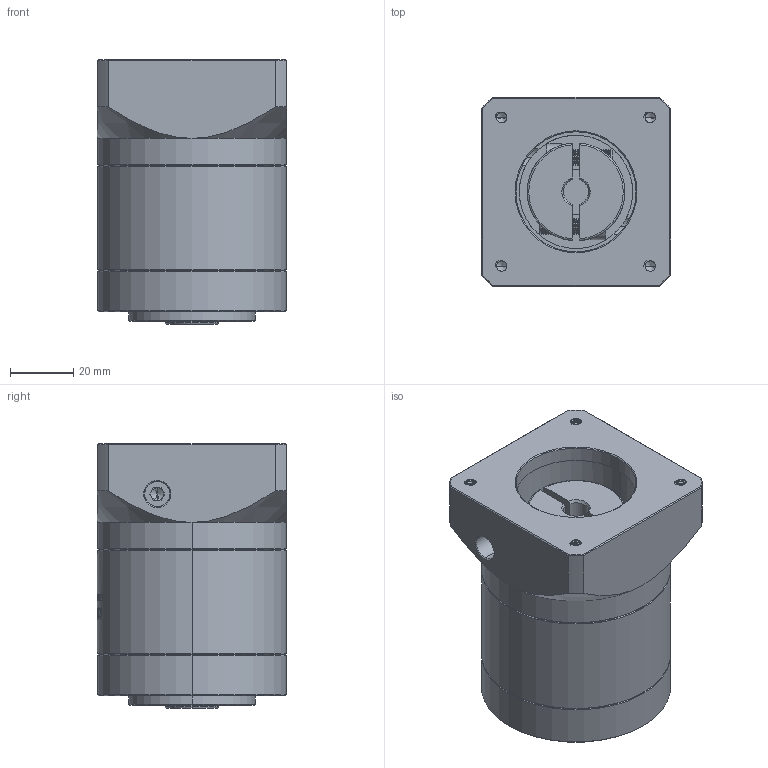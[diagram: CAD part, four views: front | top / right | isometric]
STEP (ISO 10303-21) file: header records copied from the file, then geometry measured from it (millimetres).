
FILE_DESCRIPTION (( 'STEP AP214' ), '1' );
FILE_NAME ('ZE60-K10-L1-8-38.1-47.14X47.14-M4.STEP', '2022-04-17T15:13:57', ( '' ), ( 'Microsoft' ), 'SwSTEP 2.0', 'SolidWorks 2016', '' );
FILE_SCHEMA (( 'AUTOMOTIVE_DESIGN' ));
Length unit declared in the file: millimetre
Products named in the file (1): ZE60-K10-L1-8-38.1-47.14X47.14-M4
Bounding box: 60 x 60 x 84 mm (x, y, z)
Volume: 211604.2 mm3; surface area: 41499.7 mm2
Topology: 6 solids, 6 shells, 1634 faces, 4453 edges, 2890 vertices
Faces by surface type: plane 725, cylinder 380, bspline 304, cone 207, torus 18
Entity records: 93440 total; most frequent: CARTESIAN_POINT 38269, ORIENTED_EDGE 8866, DIRECTION 6346, EDGE_CURVE 4433, VERTEX_POINT 2890, LINE 2234, VECTOR 2234, AXIS2_PLACEMENT_3D 2056
